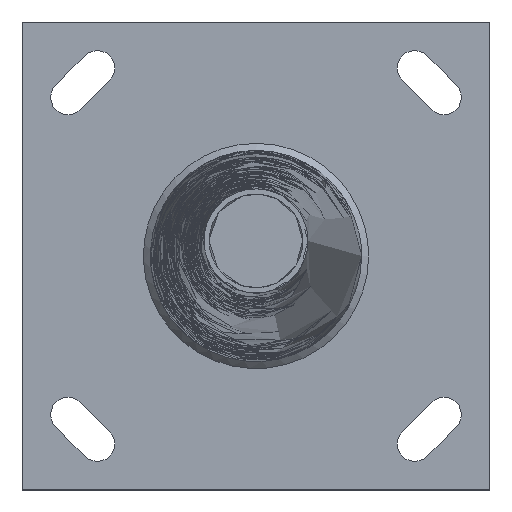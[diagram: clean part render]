
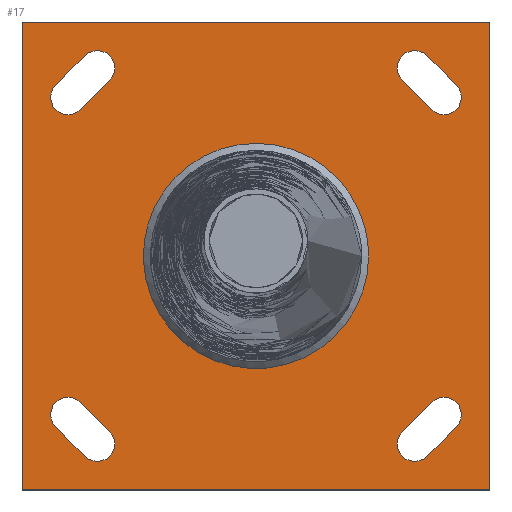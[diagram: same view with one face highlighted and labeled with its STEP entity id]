
A CAD part, top view. The second image highlights one B-rep face of the part: STEP entity #17.
In plain terms, the highlighted planar face has unit normal (0, 0, 1).
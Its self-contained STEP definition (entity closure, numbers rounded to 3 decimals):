
#17 = ADVANCED_FACE('',(#18,#75,#109,#145,#181,#217),#253,.T.);
#18 = FACE_BOUND('',#19,.T.);
#19 = EDGE_LOOP('',(#20));
#20 = ORIENTED_EDGE('',*,*,#21,.T.);
#21 = EDGE_CURVE('',#22,#22,#24,.T.);
#22 = VERTEX_POINT('',#23);
#23 = CARTESIAN_POINT('',(64.969,0.,5.));
#24 = B_SPLINE_CURVE_WITH_KNOTS('',7,(#25,#26,#27,#28,#29,#30,#31,#32,
    #33,#34,#35,#36,#37,#38,#39,#40,#41,#42,#43,#44,#45,#46,#47,#48,#49,
    #50,#51,#52,#53,#54,#55,#56,#57,#58,#59,#60,#61,#62,#63,#64,#65,#66,
    #67,#68,#69,#70,#71,#72,#73,#74),.UNSPECIFIED.,.T.,.F.,(8,6,6,6,6,6,
    6,6,8),(0.,47.885,95.77,
    143.655,191.54,239.425,287.31,
    335.195,383.08),.UNSPECIFIED.);
#25 = CARTESIAN_POINT('',(64.969,0.,5.));
#26 = CARTESIAN_POINT('',(64.969,-7.288,5.));
#27 = CARTESIAN_POINT('',(64.015,-14.581,5.));
#28 = CARTESIAN_POINT('',(62.105,-21.72,5.));
#29 = CARTESIAN_POINT('',(59.273,-28.557,5.));
#30 = CARTESIAN_POINT('',(55.575,-34.955,5.));
#31 = CARTESIAN_POINT('',(51.095,-40.785,5.));
#32 = CARTESIAN_POINT('',(40.785,-51.095,5.));
#33 = CARTESIAN_POINT('',(34.955,-55.574,5.));
#34 = CARTESIAN_POINT('',(28.558,-59.272,5.));
#35 = CARTESIAN_POINT('',(21.72,-62.106,5.));
#36 = CARTESIAN_POINT('',(14.581,-64.015,5.));
#37 = CARTESIAN_POINT('',(7.29,-64.969,5.));
#38 = CARTESIAN_POINT('',(-7.29,-64.969,5.));
#39 = CARTESIAN_POINT('',(-14.58,-64.014,5.));
#40 = CARTESIAN_POINT('',(-21.719,-62.105,5.));
#41 = CARTESIAN_POINT('',(-28.557,-59.274,5.));
#42 = CARTESIAN_POINT('',(-34.955,-55.575,5.));
#43 = CARTESIAN_POINT('',(-40.785,-51.095,5.));
#44 = CARTESIAN_POINT('',(-51.095,-40.785,5.));
#45 = CARTESIAN_POINT('',(-55.574,-34.955,5.));
#46 = CARTESIAN_POINT('',(-59.272,-28.558,5.));
#47 = CARTESIAN_POINT('',(-62.106,-21.72,5.));
#48 = CARTESIAN_POINT('',(-64.015,-14.581,5.));
#49 = CARTESIAN_POINT('',(-64.969,-7.29,5.));
#50 = CARTESIAN_POINT('',(-64.969,7.29,5.));
#51 = CARTESIAN_POINT('',(-64.014,14.58,5.));
#52 = CARTESIAN_POINT('',(-62.105,21.719,5.));
#53 = CARTESIAN_POINT('',(-59.274,28.557,5.));
#54 = CARTESIAN_POINT('',(-55.575,34.955,5.));
#55 = CARTESIAN_POINT('',(-51.095,40.785,5.));
#56 = CARTESIAN_POINT('',(-40.785,51.095,5.));
#57 = CARTESIAN_POINT('',(-34.955,55.574,5.));
#58 = CARTESIAN_POINT('',(-28.558,59.272,5.));
#59 = CARTESIAN_POINT('',(-21.72,62.106,5.));
#60 = CARTESIAN_POINT('',(-14.581,64.015,5.));
#61 = CARTESIAN_POINT('',(-7.29,64.969,5.));
#62 = CARTESIAN_POINT('',(7.29,64.969,5.));
#63 = CARTESIAN_POINT('',(14.58,64.014,5.));
#64 = CARTESIAN_POINT('',(21.719,62.105,5.));
#65 = CARTESIAN_POINT('',(28.557,59.274,5.));
#66 = CARTESIAN_POINT('',(34.955,55.575,5.));
#67 = CARTESIAN_POINT('',(40.785,51.095,5.));
#68 = CARTESIAN_POINT('',(51.095,40.785,5.));
#69 = CARTESIAN_POINT('',(55.574,34.955,5.));
#70 = CARTESIAN_POINT('',(59.272,28.558,5.));
#71 = CARTESIAN_POINT('',(62.106,21.72,5.));
#72 = CARTESIAN_POINT('',(64.015,14.581,5.));
#73 = CARTESIAN_POINT('',(64.969,7.288,5.));
#74 = CARTESIAN_POINT('',(64.969,0.,5.));
#75 = FACE_BOUND('',#76,.T.);
#76 = EDGE_LOOP('',(#77,#87,#95,#103));
#77 = ORIENTED_EDGE('',*,*,#78,.T.);
#78 = EDGE_CURVE('',#79,#81,#83,.T.);
#79 = VERTEX_POINT('',#80);
#80 = CARTESIAN_POINT('',(-135.,135.,5.));
#81 = VERTEX_POINT('',#82);
#82 = CARTESIAN_POINT('',(-135.,-135.,5.));
#83 = LINE('',#84,#85);
#84 = CARTESIAN_POINT('',(-135.,135.,5.));
#85 = VECTOR('',#86,1.);
#86 = DIRECTION('',(0.,-1.,0.));
#87 = ORIENTED_EDGE('',*,*,#88,.T.);
#88 = EDGE_CURVE('',#81,#89,#91,.T.);
#89 = VERTEX_POINT('',#90);
#90 = CARTESIAN_POINT('',(135.,-135.,5.));
#91 = LINE('',#92,#93);
#92 = CARTESIAN_POINT('',(-135.,-135.,5.));
#93 = VECTOR('',#94,1.);
#94 = DIRECTION('',(1.,0.,0.));
#95 = ORIENTED_EDGE('',*,*,#96,.T.);
#96 = EDGE_CURVE('',#89,#97,#99,.T.);
#97 = VERTEX_POINT('',#98);
#98 = CARTESIAN_POINT('',(135.,135.,5.));
#99 = LINE('',#100,#101);
#100 = CARTESIAN_POINT('',(135.,-135.,5.));
#101 = VECTOR('',#102,1.);
#102 = DIRECTION('',(0.,1.,0.));
#103 = ORIENTED_EDGE('',*,*,#104,.T.);
#104 = EDGE_CURVE('',#97,#79,#105,.T.);
#105 = LINE('',#106,#107);
#106 = CARTESIAN_POINT('',(135.,135.,5.));
#107 = VECTOR('',#108,1.);
#108 = DIRECTION('',(-1.,0.,0.));
#109 = FACE_BOUND('',#110,.T.);
#110 = EDGE_LOOP('',(#111,#122,#130,#139));
#111 = ORIENTED_EDGE('',*,*,#112,.F.);
#112 = EDGE_CURVE('',#113,#115,#117,.T.);
#113 = VERTEX_POINT('',#114);
#114 = CARTESIAN_POINT('',(-101.414,-84.444,5.));
#115 = VERTEX_POINT('',#116);
#116 = CARTESIAN_POINT('',(-115.556,-98.586,5.));
#117 = CIRCLE('',#118,10.);
#118 = AXIS2_PLACEMENT_3D('',#119,#120,#121);
#119 = CARTESIAN_POINT('',(-108.485,-91.515,5.));
#120 = DIRECTION('',(0.,-0.,1.));
#121 = DIRECTION('',(0.,1.,0.));
#122 = ORIENTED_EDGE('',*,*,#123,.T.);
#123 = EDGE_CURVE('',#113,#124,#126,.T.);
#124 = VERTEX_POINT('',#125);
#125 = CARTESIAN_POINT('',(-84.444,-101.414,5.));
#126 = LINE('',#127,#128);
#127 = CARTESIAN_POINT('',(-101.414,-84.444,5.));
#128 = VECTOR('',#129,1.);
#129 = DIRECTION('',(0.707,-0.707,0.));
#130 = ORIENTED_EDGE('',*,*,#131,.F.);
#131 = EDGE_CURVE('',#132,#124,#134,.T.);
#132 = VERTEX_POINT('',#133);
#133 = CARTESIAN_POINT('',(-98.586,-115.556,5.));
#134 = CIRCLE('',#135,10.);
#135 = AXIS2_PLACEMENT_3D('',#136,#137,#138);
#136 = CARTESIAN_POINT('',(-91.515,-108.485,5.));
#137 = DIRECTION('',(0.,-0.,1.));
#138 = DIRECTION('',(0.,1.,0.));
#139 = ORIENTED_EDGE('',*,*,#140,.F.);
#140 = EDGE_CURVE('',#115,#132,#141,.T.);
#141 = LINE('',#142,#143);
#142 = CARTESIAN_POINT('',(-115.556,-98.586,5.));
#143 = VECTOR('',#144,1.);
#144 = DIRECTION('',(0.707,-0.707,0.));
#145 = FACE_BOUND('',#146,.T.);
#146 = EDGE_LOOP('',(#147,#158,#166,#175));
#147 = ORIENTED_EDGE('',*,*,#148,.F.);
#148 = EDGE_CURVE('',#149,#151,#153,.T.);
#149 = VERTEX_POINT('',#150);
#150 = CARTESIAN_POINT('',(84.444,-101.414,5.));
#151 = VERTEX_POINT('',#152);
#152 = CARTESIAN_POINT('',(98.586,-115.556,5.));
#153 = CIRCLE('',#154,10.);
#154 = AXIS2_PLACEMENT_3D('',#155,#156,#157);
#155 = CARTESIAN_POINT('',(91.515,-108.485,5.));
#156 = DIRECTION('',(0.,0.,1.));
#157 = DIRECTION('',(-1.,0.,0.));
#158 = ORIENTED_EDGE('',*,*,#159,.T.);
#159 = EDGE_CURVE('',#149,#160,#162,.T.);
#160 = VERTEX_POINT('',#161);
#161 = CARTESIAN_POINT('',(101.414,-84.444,5.));
#162 = LINE('',#163,#164);
#163 = CARTESIAN_POINT('',(84.444,-101.414,5.));
#164 = VECTOR('',#165,1.);
#165 = DIRECTION('',(0.707,0.707,0.));
#166 = ORIENTED_EDGE('',*,*,#167,.F.);
#167 = EDGE_CURVE('',#168,#160,#170,.T.);
#168 = VERTEX_POINT('',#169);
#169 = CARTESIAN_POINT('',(115.556,-98.586,5.));
#170 = CIRCLE('',#171,10.);
#171 = AXIS2_PLACEMENT_3D('',#172,#173,#174);
#172 = CARTESIAN_POINT('',(108.485,-91.515,5.));
#173 = DIRECTION('',(0.,0.,1.));
#174 = DIRECTION('',(-1.,0.,0.));
#175 = ORIENTED_EDGE('',*,*,#176,.F.);
#176 = EDGE_CURVE('',#151,#168,#177,.T.);
#177 = LINE('',#178,#179);
#178 = CARTESIAN_POINT('',(98.586,-115.556,5.));
#179 = VECTOR('',#180,1.);
#180 = DIRECTION('',(0.707,0.707,0.));
#181 = FACE_BOUND('',#182,.T.);
#182 = EDGE_LOOP('',(#183,#194,#202,#211));
#183 = ORIENTED_EDGE('',*,*,#184,.F.);
#184 = EDGE_CURVE('',#185,#187,#189,.T.);
#185 = VERTEX_POINT('',#186);
#186 = CARTESIAN_POINT('',(-84.444,101.414,5.));
#187 = VERTEX_POINT('',#188);
#188 = CARTESIAN_POINT('',(-98.586,115.556,5.));
#189 = CIRCLE('',#190,10.);
#190 = AXIS2_PLACEMENT_3D('',#191,#192,#193);
#191 = CARTESIAN_POINT('',(-91.515,108.485,5.));
#192 = DIRECTION('',(0.,0.,1.));
#193 = DIRECTION('',(1.,0.,0.));
#194 = ORIENTED_EDGE('',*,*,#195,.T.);
#195 = EDGE_CURVE('',#185,#196,#198,.T.);
#196 = VERTEX_POINT('',#197);
#197 = CARTESIAN_POINT('',(-101.414,84.444,5.));
#198 = LINE('',#199,#200);
#199 = CARTESIAN_POINT('',(-84.444,101.414,5.));
#200 = VECTOR('',#201,1.);
#201 = DIRECTION('',(-0.707,-0.707,0.));
#202 = ORIENTED_EDGE('',*,*,#203,.F.);
#203 = EDGE_CURVE('',#204,#196,#206,.T.);
#204 = VERTEX_POINT('',#205);
#205 = CARTESIAN_POINT('',(-115.556,98.586,5.));
#206 = CIRCLE('',#207,10.);
#207 = AXIS2_PLACEMENT_3D('',#208,#209,#210);
#208 = CARTESIAN_POINT('',(-108.485,91.515,5.));
#209 = DIRECTION('',(0.,0.,1.));
#210 = DIRECTION('',(1.,0.,0.));
#211 = ORIENTED_EDGE('',*,*,#212,.F.);
#212 = EDGE_CURVE('',#187,#204,#213,.T.);
#213 = LINE('',#214,#215);
#214 = CARTESIAN_POINT('',(-98.586,115.556,5.));
#215 = VECTOR('',#216,1.);
#216 = DIRECTION('',(-0.707,-0.707,0.));
#217 = FACE_BOUND('',#218,.T.);
#218 = EDGE_LOOP('',(#219,#230,#238,#247));
#219 = ORIENTED_EDGE('',*,*,#220,.F.);
#220 = EDGE_CURVE('',#221,#223,#225,.T.);
#221 = VERTEX_POINT('',#222);
#222 = CARTESIAN_POINT('',(101.414,84.444,5.));
#223 = VERTEX_POINT('',#224);
#224 = CARTESIAN_POINT('',(115.556,98.586,5.));
#225 = CIRCLE('',#226,10.);
#226 = AXIS2_PLACEMENT_3D('',#227,#228,#229);
#227 = CARTESIAN_POINT('',(108.485,91.515,5.));
#228 = DIRECTION('',(0.,0.,1.));
#229 = DIRECTION('',(0.,-1.,0.));
#230 = ORIENTED_EDGE('',*,*,#231,.T.);
#231 = EDGE_CURVE('',#221,#232,#234,.T.);
#232 = VERTEX_POINT('',#233);
#233 = CARTESIAN_POINT('',(84.444,101.414,5.));
#234 = LINE('',#235,#236);
#235 = CARTESIAN_POINT('',(101.414,84.444,5.));
#236 = VECTOR('',#237,1.);
#237 = DIRECTION('',(-0.707,0.707,0.));
#238 = ORIENTED_EDGE('',*,*,#239,.F.);
#239 = EDGE_CURVE('',#240,#232,#242,.T.);
#240 = VERTEX_POINT('',#241);
#241 = CARTESIAN_POINT('',(98.586,115.556,5.));
#242 = CIRCLE('',#243,10.);
#243 = AXIS2_PLACEMENT_3D('',#244,#245,#246);
#244 = CARTESIAN_POINT('',(91.515,108.485,5.));
#245 = DIRECTION('',(0.,0.,1.));
#246 = DIRECTION('',(0.,-1.,0.));
#247 = ORIENTED_EDGE('',*,*,#248,.F.);
#248 = EDGE_CURVE('',#223,#240,#249,.T.);
#249 = LINE('',#250,#251);
#250 = CARTESIAN_POINT('',(115.556,98.586,5.));
#251 = VECTOR('',#252,1.);
#252 = DIRECTION('',(-0.707,0.707,0.));
#253 = PLANE('',#254);
#254 = AXIS2_PLACEMENT_3D('',#255,#256,#257);
#255 = CARTESIAN_POINT('',(0.,0.,5.));
#256 = DIRECTION('',(0.,0.,1.));
#257 = DIRECTION('',(1.,0.,0.));
